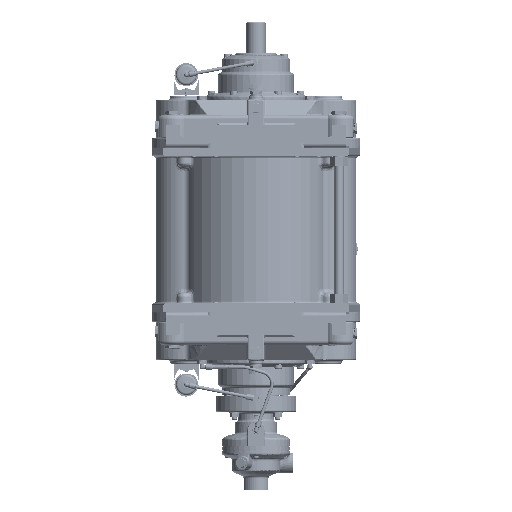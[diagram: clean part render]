
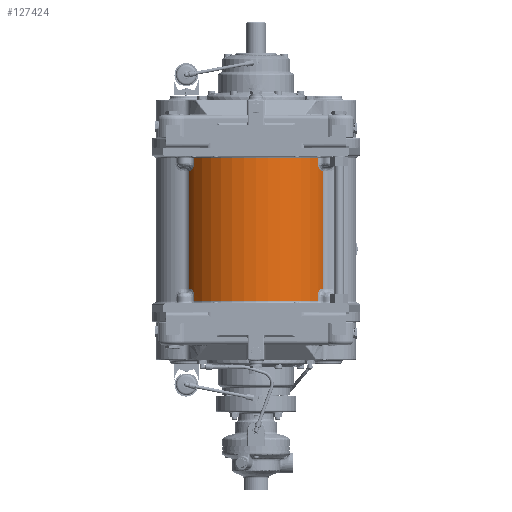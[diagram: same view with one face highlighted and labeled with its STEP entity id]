
A CAD part, front view. The second image highlights one B-rep face of the part: STEP entity #127424.
In plain terms, the highlighted cylindrical face has radius 180.5 mm (diameter 361 mm), a partial arc.
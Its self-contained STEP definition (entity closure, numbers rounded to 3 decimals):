
#5220=B_SPLINE_CURVE_WITH_KNOTS('',3,(#201459,#201460,#201461,#201462,#201463,
#201464,#201465),.UNSPECIFIED.,.F.,.F.,(4,1,1,1,4),(-3.142,-2.244,
-1.347,-0.898,0.),
 .UNSPECIFIED.);
#5222=B_SPLINE_CURVE_WITH_KNOTS('',3,(#201625,#201626,#201627,#201628,#201629,
#201630,#201631),.UNSPECIFIED.,.F.,.F.,(4,1,1,1,4),(-3.142,-2.244,
-1.347,-0.898,0.),.UNSPECIFIED.);
#5229=B_SPLINE_CURVE_WITH_KNOTS('',3,(#201857,#201858,#201859,#201860,#201861,
#201862,#201863),.UNSPECIFIED.,.F.,.F.,(4,1,1,1,4),(-3.142,-2.693,
-1.796,-0.898,0.),
 .UNSPECIFIED.);
#5232=B_SPLINE_CURVE_WITH_KNOTS('',3,(#201987,#201988,#201989,#201990,#201991,
#201992,#201993),.UNSPECIFIED.,.F.,.F.,(4,1,1,1,4),(-3.142,-2.244,
-1.347,-0.898,0.),
 .UNSPECIFIED.);
#15637=LINE('',#201468,#24524);
#15647=LINE('',#201645,#24534);
#15655=LINE('',#201768,#24542);
#15661=LINE('',#201877,#24548);
#15667=LINE('',#201994,#24554);
#15668=LINE('',#201995,#24555);
#24524=VECTOR('',#153803,10.);
#24534=VECTOR('',#153863,10.);
#24542=VECTOR('',#153913,10.);
#24548=VECTOR('',#153931,10.);
#24554=VECTOR('',#153977,10.);
#24555=VECTOR('',#153978,10.);
#32439=CYLINDRICAL_SURFACE('',#137929,180.5);
#36035=FACE_OUTER_BOUND('',#43579,.T.);
#43579=EDGE_LOOP('',(#94770,#94771,#94772,#94773,#94774,#94775,#94776,#94777,
#94778,#94779,#94780,#94781,#94782,#94783,#94784,#94785));
#51559=CIRCLE('',#137571,180.5);
#51645=CIRCLE('',#137703,180.5);
#51745=CIRCLE('',#137875,180.5);
#51752=CIRCLE('',#137889,180.5);
#51770=CIRCLE('',#137916,180.5);
#51780=CIRCLE('',#137930,180.5);
#57126=VERTEX_POINT('',#199620);
#57127=VERTEX_POINT('',#199624);
#57214=VERTEX_POINT('',#200728);
#57215=VERTEX_POINT('',#200732);
#57275=VERTEX_POINT('',#201456);
#57276=VERTEX_POINT('',#201458);
#57285=VERTEX_POINT('',#201568);
#57286=VERTEX_POINT('',#201623);
#57287=VERTEX_POINT('',#201624);
#57295=VERTEX_POINT('',#201713);
#57303=VERTEX_POINT('',#201766);
#57310=VERTEX_POINT('',#201855);
#57311=VERTEX_POINT('',#201856);
#57317=VERTEX_POINT('',#201935);
#57323=VERTEX_POINT('',#201984);
#57324=VERTEX_POINT('',#201986);
#70918=EDGE_CURVE('',#57126,#57127,#51559,.T.);
#71074=EDGE_CURVE('',#57214,#57215,#51645,.T.);
#71218=EDGE_CURVE('',#57275,#57276,#5220,.T.);
#71220=EDGE_CURVE('',#57127,#57275,#15637,.T.);
#71239=EDGE_CURVE('',#57276,#57285,#51745,.T.);
#71243=EDGE_CURVE('',#57286,#57287,#5222,.T.);
#71248=EDGE_CURVE('',#57287,#57126,#15647,.T.);
#71256=EDGE_CURVE('',#57295,#57286,#51752,.T.);
#71273=EDGE_CURVE('',#57295,#57303,#15655,.T.);
#71282=EDGE_CURVE('',#57310,#57311,#5229,.T.);
#71287=EDGE_CURVE('',#57311,#57214,#15661,.T.);
#71293=EDGE_CURVE('',#57317,#57310,#51770,.T.);
#71307=EDGE_CURVE('',#57323,#57303,#51780,.T.);
#71308=EDGE_CURVE('',#57324,#57323,#5232,.T.);
#71309=EDGE_CURVE('',#57215,#57324,#15667,.T.);
#71310=EDGE_CURVE('',#57285,#57317,#15668,.T.);
#94770=ORIENTED_EDGE('',*,*,#70918,.F.);
#94771=ORIENTED_EDGE('',*,*,#71248,.F.);
#94772=ORIENTED_EDGE('',*,*,#71243,.F.);
#94773=ORIENTED_EDGE('',*,*,#71256,.F.);
#94774=ORIENTED_EDGE('',*,*,#71273,.T.);
#94775=ORIENTED_EDGE('',*,*,#71307,.F.);
#94776=ORIENTED_EDGE('',*,*,#71308,.F.);
#94777=ORIENTED_EDGE('',*,*,#71309,.F.);
#94778=ORIENTED_EDGE('',*,*,#71074,.F.);
#94779=ORIENTED_EDGE('',*,*,#71287,.F.);
#94780=ORIENTED_EDGE('',*,*,#71282,.F.);
#94781=ORIENTED_EDGE('',*,*,#71293,.F.);
#94782=ORIENTED_EDGE('',*,*,#71310,.F.);
#94783=ORIENTED_EDGE('',*,*,#71239,.F.);
#94784=ORIENTED_EDGE('',*,*,#71218,.F.);
#94785=ORIENTED_EDGE('',*,*,#71220,.F.);
#127424=ADVANCED_FACE('',(#36035),#32439,.T.);
#137571=AXIS2_PLACEMENT_3D('',#199626,#153148,#153149);
#137703=AXIS2_PLACEMENT_3D('',#200734,#153452,#153453);
#137875=AXIS2_PLACEMENT_3D('',#201573,#153842,#153843);
#137889=AXIS2_PLACEMENT_3D('',#201715,#153876,#153877);
#137916=AXIS2_PLACEMENT_3D('',#201937,#153943,#153944);
#137929=AXIS2_PLACEMENT_3D('',#201983,#153973,#153974);
#137930=AXIS2_PLACEMENT_3D('',#201985,#153975,#153976);
#153148=DIRECTION('center_axis',(0.,0.,
-1.));
#153149=DIRECTION('ref_axis',(0.,-1.,0.));
#153452=DIRECTION('center_axis',(0.,0.,
1.));
#153453=DIRECTION('ref_axis',(0.,-1.,0.));
#153803=DIRECTION('',(0.,0.,1.));
#153842=DIRECTION('center_axis',(0.,0.,
-1.));
#153843=DIRECTION('ref_axis',(-0.872,-0.489,0.));
#153863=DIRECTION('',(0.,0.,-1.));
#153876=DIRECTION('center_axis',(0.,0.,
-1.));
#153877=DIRECTION('ref_axis',(0.872,-0.489,0.));
#153913=DIRECTION('',(0.,0.,1.));
#153931=DIRECTION('',(0.,0.,1.));
#153943=DIRECTION('center_axis',(0.,0.,
1.));
#153944=DIRECTION('ref_axis',(-0.872,-0.489,0.));
#153973=DIRECTION('center_axis',(0.,0.,
1.));
#153974=DIRECTION('ref_axis',(-0.891,-0.454,0.));
#153975=DIRECTION('center_axis',(0.,0.,
1.));
#153976=DIRECTION('ref_axis',(0.872,-0.489,0.));
#153977=DIRECTION('',(0.,0.,-1.));
#153978=DIRECTION('',(0.,0.,1.));
#199620=CARTESIAN_POINT('',(148.662,-102.371,-172.));
#199624=CARTESIAN_POINT('',(-148.662,-102.371,-172.));
#199626=CARTESIAN_POINT('Origin',(0.,0.,
-172.));
#200728=CARTESIAN_POINT('',(-148.662,-102.371,172.));
#200732=CARTESIAN_POINT('',(148.662,-102.371,172.));
#200734=CARTESIAN_POINT('Origin',(0.,0.,
172.));
#201456=CARTESIAN_POINT('',(-148.662,-102.371,-162.));
#201458=CARTESIAN_POINT('',(-158.576,-86.221,-142.));
#201459=CARTESIAN_POINT('Ctrl Pts',(-148.662,-102.371,-162.));
#201460=CARTESIAN_POINT('Ctrl Pts',(-148.662,-102.371,-159.007));
#201461=CARTESIAN_POINT('Ctrl Pts',(-149.404,-101.308,
-153.024));
#201462=CARTESIAN_POINT('Ctrl Pts',(-151.912,-97.529,
-147.031));
#201463=CARTESIAN_POINT('Ctrl Pts',(-155.097,-92.393,
-143.027));
#201464=CARTESIAN_POINT('Ctrl Pts',(-157.221,-88.712,
-142.));
#201465=CARTESIAN_POINT('Ctrl Pts',(-158.576,-86.221,
-142.));
#201468=CARTESIAN_POINT('',(-148.662,-102.371,0.));
#201568=CARTESIAN_POINT('',(-160.817,-81.965,-142.));
#201573=CARTESIAN_POINT('Origin',(0.,0.,
-142.));
#201623=CARTESIAN_POINT('',(158.576,-86.221,-142.));
#201624=CARTESIAN_POINT('',(148.662,-102.371,-162.));
#201625=CARTESIAN_POINT('Ctrl Pts',(158.576,-86.221,
-142.));
#201626=CARTESIAN_POINT('Ctrl Pts',(157.221,-88.712,-142.));
#201627=CARTESIAN_POINT('Ctrl Pts',(154.386,-93.625,-143.364));
#201628=CARTESIAN_POINT('Ctrl Pts',(151.329,-98.412,
-148.148));
#201629=CARTESIAN_POINT('Ctrl Pts',(149.22,-101.57,
-154.524));
#201630=CARTESIAN_POINT('Ctrl Pts',(148.662,-102.371,
-159.007));
#201631=CARTESIAN_POINT('Ctrl Pts',(148.662,-102.371,
-162.));
#201645=CARTESIAN_POINT('',(148.662,-102.371,0.));
#201713=CARTESIAN_POINT('',(160.817,-81.965,-142.));
#201715=CARTESIAN_POINT('Origin',(0.,0.,
-142.));
#201766=CARTESIAN_POINT('',(160.817,-81.965,142.));
#201768=CARTESIAN_POINT('',(160.817,-81.965,0.));
#201855=CARTESIAN_POINT('',(-158.576,-86.221,142.));
#201856=CARTESIAN_POINT('',(-148.662,-102.371,162.));
#201857=CARTESIAN_POINT('Ctrl Pts',(-158.576,-86.221,142.));
#201858=CARTESIAN_POINT('Ctrl Pts',(-157.898,-87.466,
142.));
#201859=CARTESIAN_POINT('Ctrl Pts',(-155.823,-91.18,
142.5));
#201860=CARTESIAN_POINT('Ctrl Pts',(-152.415,-96.776,
145.827));
#201861=CARTESIAN_POINT('Ctrl Pts',(-149.404,-101.307,
153.025));
#201862=CARTESIAN_POINT('Ctrl Pts',(-148.662,-102.371,
159.007));
#201863=CARTESIAN_POINT('Ctrl Pts',(-148.662,-102.371,
162.));
#201877=CARTESIAN_POINT('',(-148.662,-102.371,0.));
#201935=CARTESIAN_POINT('',(-160.817,-81.965,142.));
#201937=CARTESIAN_POINT('Origin',(0.,0.,
142.));
#201983=CARTESIAN_POINT('Origin',(0.,0.,
0.));
#201984=CARTESIAN_POINT('',(158.576,-86.221,142.));
#201985=CARTESIAN_POINT('Origin',(0.,0.,
142.));
#201986=CARTESIAN_POINT('',(148.662,-102.371,162.));
#201987=CARTESIAN_POINT('Ctrl Pts',(148.662,-102.371,
162.));
#201988=CARTESIAN_POINT('Ctrl Pts',(148.662,-102.371,
159.007));
#201989=CARTESIAN_POINT('Ctrl Pts',(149.404,-101.308,
153.024));
#201990=CARTESIAN_POINT('Ctrl Pts',(151.912,-97.529,
147.031));
#201991=CARTESIAN_POINT('Ctrl Pts',(155.097,-92.393,
143.027));
#201992=CARTESIAN_POINT('Ctrl Pts',(157.221,-88.712,
142.));
#201993=CARTESIAN_POINT('Ctrl Pts',(158.576,-86.221,
142.));
#201994=CARTESIAN_POINT('',(148.662,-102.371,0.));
#201995=CARTESIAN_POINT('',(-160.817,-81.965,0.));
